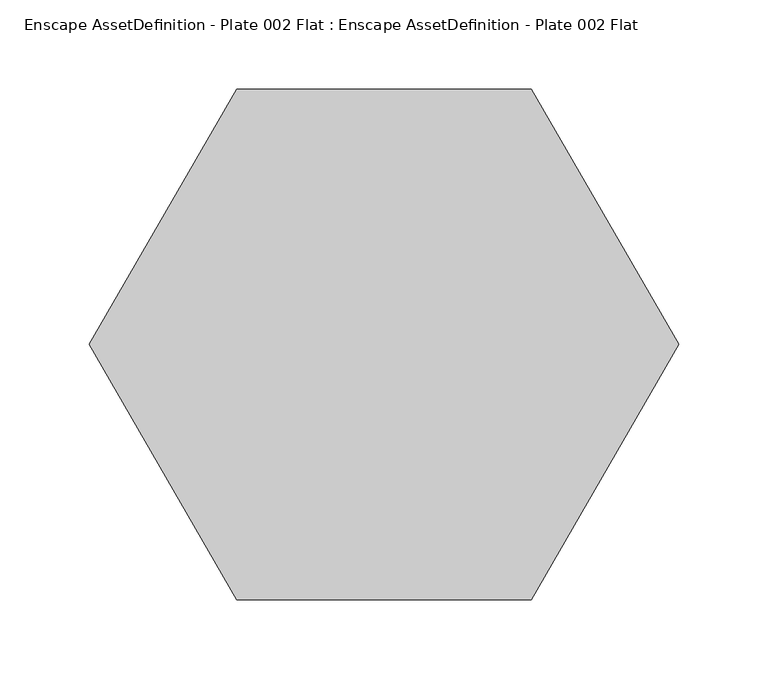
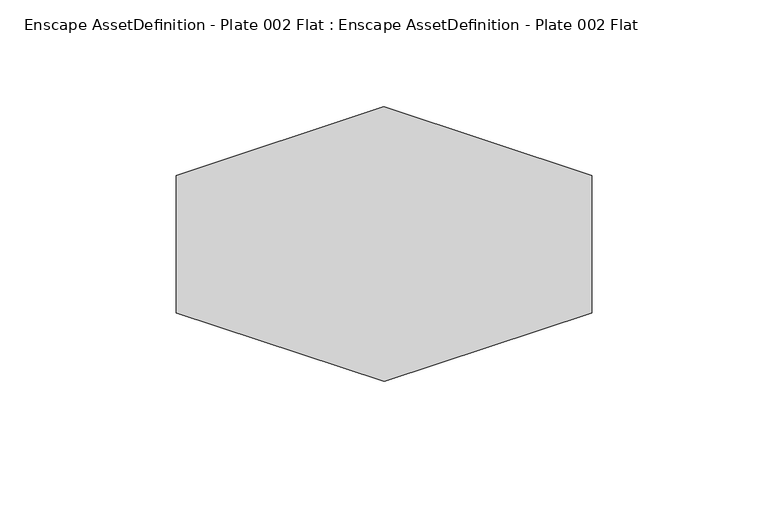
"""IFC4 building model written with IfcOpenShell, lengths in millimetres: geographic element geometry, Enscape AssetDefinition - Plate 002 Flat : Enscape AssetDefinition - Plate 002 Flat."""

from ifc_helpers import new_model, si_unit, origin, place, context, project, spatial, triangles, source, transform, mapped, element, save


def enscape_assetdefinition_plate_002_flat_enscape_671f95ad(model_context):
    return source(origin(), model_context, "Body", "Tessellation", [
        triangles([(82.8527916, -143.5061206, 17.9999994), (102.5210224, 0.0, 0.0), (51.2605112, -88.7864501, 0.0), (-165.7066006, 0.0, 17.9999994), (-82.8527916, 143.5061206, 17.9999994), (51.2605112, 88.7864501, 0.0), (165.7066006, 0.0, 17.9999994), (82.8527916, 143.5061206, 17.9999994), (-102.5210224, 0.0, 0.0), (-51.2605112, -88.7864501, 0.0), (-51.2605112, 88.7864501, 0.0), (-82.8527916, -143.5061206, 17.9999994)], [[8, 5, 7], [5, 4, 7], [4, 12, 7], [12, 1, 7], [3, 10, 11], [10, 9, 11], [6, 2, 11], [2, 3, 11], [8, 7, 6], [2, 6, 7], [5, 8, 11], [6, 11, 8], [4, 5, 9], [11, 9, 5], [12, 4, 10], [9, 10, 4], [1, 12, 3], [10, 3, 12], [7, 1, 2], [3, 2, 1]]),
    ])


if __name__ == "__main__":
    model = new_model("IFC4")
    model_context = context("Model", 3, world=origin())
    ifc_project = project(units=[si_unit("LENGTHUNIT", "METRE", prefix="MILLI")], contexts=[model_context])
    site = spatial("IfcSite", under=ifc_project)
    building = spatial("IfcBuilding", under=site)
    placement = place(None, origin())
    enscape_assetdefinition_plate_002_flat_enscape_shape = enscape_assetdefinition_plate_002_flat_enscape_671f95ad(model_context)
    element("IfcGeographicElement", 1, ObjectType="Enscape AssetDefinition - Plate 002 Flat : Enscape AssetDefinition - Plate 002 Flat", at=placement, inside=building, context=model_context, shape_type="MappedRepresentation", body=[
        mapped(enscape_assetdefinition_plate_002_flat_enscape_shape, transform((0.0, 0.0, 0.0), x_axis=(1.0, 0.0, 0.0), y_axis=(0.0, 1.0, 0.0), z_axis=(0.0, 0.0, 1.0))),
    ])
    save(model, "model.ifc")
